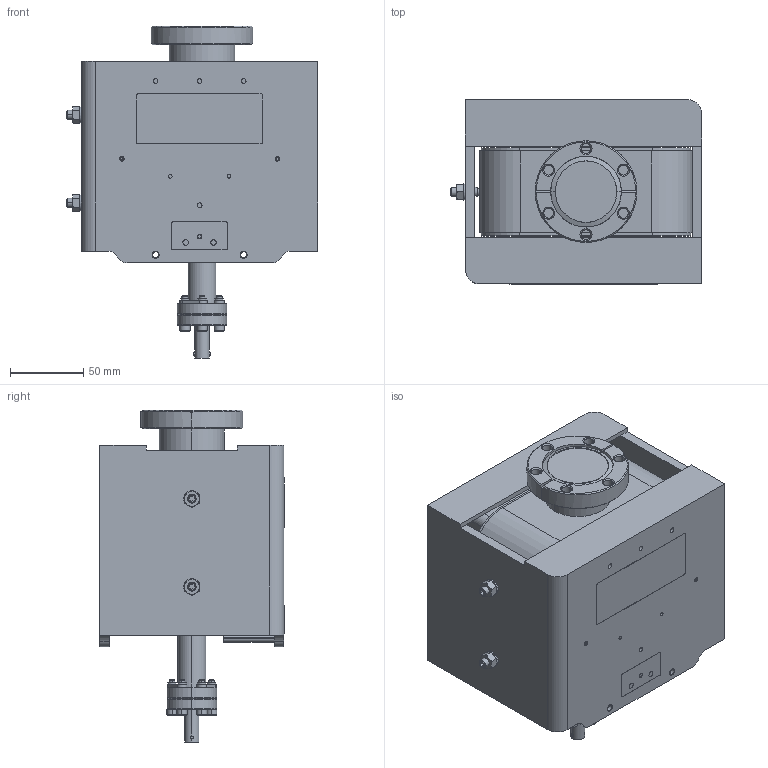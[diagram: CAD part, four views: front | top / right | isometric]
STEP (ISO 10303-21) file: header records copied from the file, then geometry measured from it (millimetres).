
FILE_DESCRIPTION((''),'2;1');
FILE_NAME('360207_25SVW_DWG_SW0001','2009-10-01T',('gollab'),('Gamma Vacuum, LLC'),'PRO/ENGINEER BY PARAMETRIC TECHNOLOGY CORPORATION, 2006080','PRO/ENGINEER BY PARAMETRIC TECHNOLOGY CORPORATION, 2006080','');
FILE_SCHEMA(('CONFIG_CONTROL_DESIGN'));
Length unit declared in the file: millimetre
Products named in the file (1): 360207_25SVW_DWG_SW0001
Bounding box: 171.35 x 125.55 x 226.27 mm (x, y, z)
Volume: 1192127.5 mm3; surface area: 343174.7 mm2
Topology: 13 solids, 13 shells, 845 faces, 2118 edges, 1338 vertices
Faces by surface type: plane 348, cylinder 303, cone 166, torus 28
Entity records: 28442 total; most frequent: CARTESIAN_POINT 7555, DIRECTION 4522, ORIENTED_EDGE 4236, EDGE_CURVE 2118, AXIS2_PLACEMENT_3D 1711, VERTEX_POINT 1338, VECTOR 1100, LINE 1100
